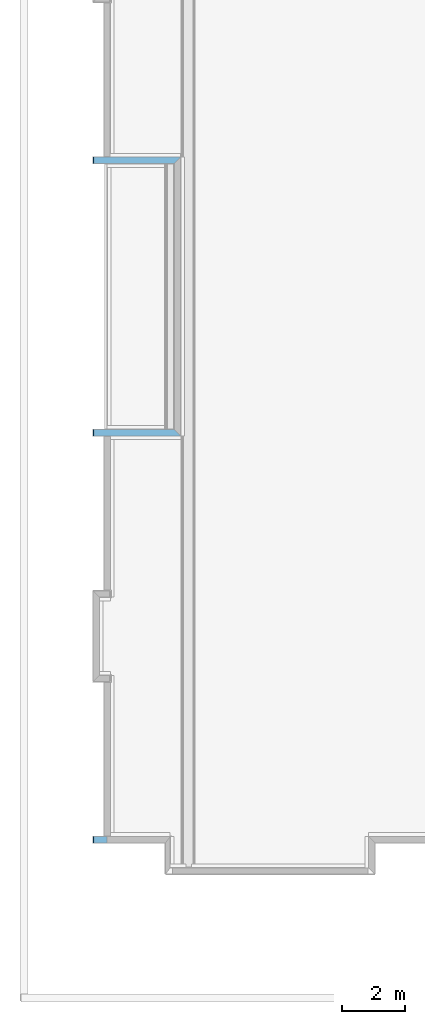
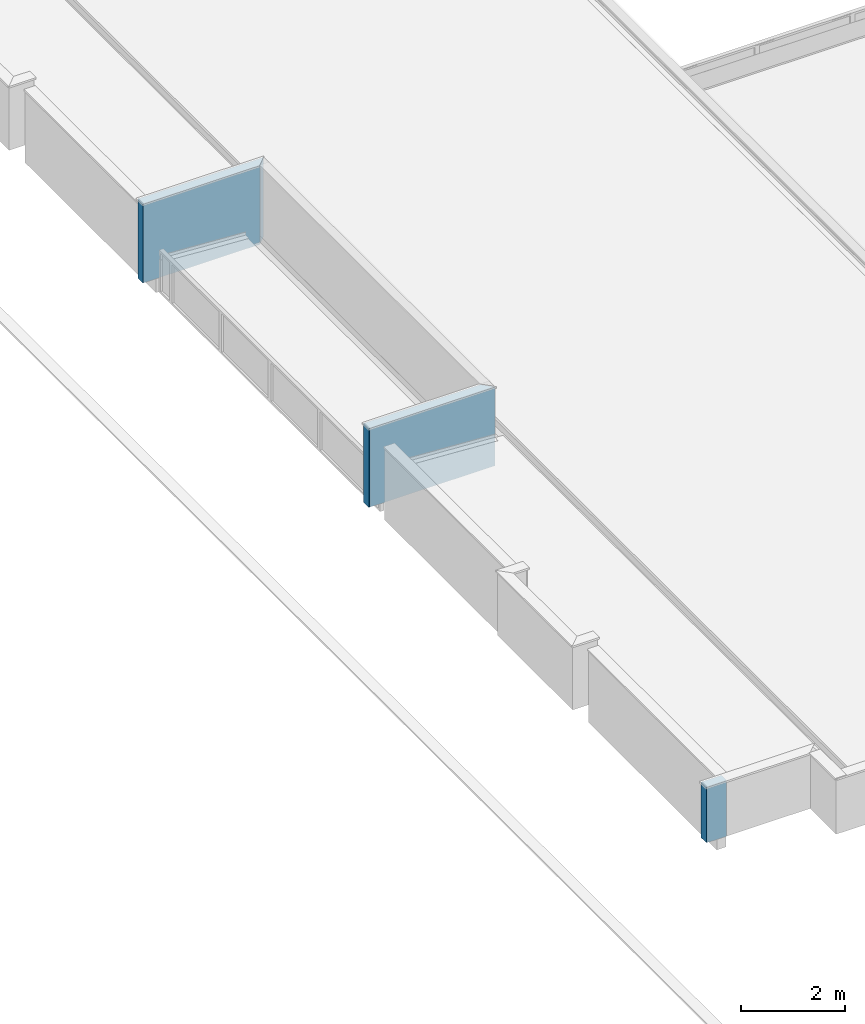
# One storey, part 16 of 25: 3 walls, 3 openings, plus 3 elements that do not belong to this part.
"""IFC4 building model written with IfcOpenShell, lengths in metres."""

import ifcopenshell
import ifcopenshell.guid

model = None  # the IFC model being written
_history = None  # IfcOwnerHistory: only IFC2X3 demands one
_inside = {}  # id of a spatial element -> (the spatial element, [elements in it])
_under = {}  # id of a project, library or spatial element -> (it, [spatial elements below it])
_declared = {}  # id of a project -> (the project, [libraries it declares])
_typed = {}  # id of a type object -> (the type object, [elements of that type])
_made_of = {}  # id of a material, layer set ... -> (it, [elements and type objects made of it])


def new_model(schema):
    """Start an empty IFC model of exactly this schema.

    Asked for "IFC4X3", IfcOpenShell would pick the latest addendum, in which some entities
    have other attributes; the version numbers below select the first issue.
    IFC2X3 requires an IfcOwnerHistory on every rooted entity: one is made here for all.
    """
    global model, _history
    if schema == "IFC4X3":
        model = ifcopenshell.file(schema_version=(4, 3, 0, 0))
    else:
        model = ifcopenshell.file(schema=schema)
    _inside.clear()
    _under.clear()
    _declared.clear()
    _typed.clear()
    _made_of.clear()
    _history = None
    if model.schema == "IFC2X3":
        org = make("IfcOrganization", Name="unknown")
        user = make(
            "IfcPersonAndOrganization",
            ThePerson=make("IfcPerson", FamilyName="unknown"),
            TheOrganization=org,
        )
        app = make(
            "IfcApplication",
            ApplicationDeveloper=org,
            Version="unknown",
            ApplicationFullName="unknown",
            ApplicationIdentifier="unknown",
        )
        _history = make(
            "IfcOwnerHistory",
            OwningUser=user,
            OwningApplication=app,
            ChangeAction="ADDED",
            CreationDate=0,
        )
    return model


def make(cls, **values):
    """One entity of the class cls with the attributes given. An attribute that is None is left unset."""
    return model.create_entity(
        cls, **{name: value for name, value in values.items() if value is not None}
    )


def entity(cls, *values):
    """Any entity or typed value of the class cls, its attributes in the order of the schema. None: left unset."""
    e = model.create_entity(cls)
    for i, value in enumerate(values):
        if value is not None:
            e[i] = value
    return e


def rooted(cls, **values):
    """An entity with a GlobalId (a new one), such as an element, a storey or a relation."""
    return make(cls, GlobalId=ifcopenshell.guid.new(), OwnerHistory=_history, **values)


def si_unit(unit_type, name, prefix=None):
    """IfcSIUnit, for example si_unit("LENGTHUNIT", "METRE", prefix="MILLI")."""
    return make("IfcSIUnit", UnitType=unit_type, Prefix=prefix, Name=name)


def converted_unit(unit_type, name, factor, base, dimensions=None, offset=None):
    """IfcConversionBasedUnit, such as the inch: factor (a typed value) times the base unit."""
    return make(
        "IfcConversionBasedUnit"
        if offset is None
        else "IfcConversionBasedUnitWithOffset",
        ConversionOffset=offset,
        Dimensions=None
        if dimensions is None
        else entity("IfcDimensionalExponents", *dimensions),
        UnitType=unit_type,
        Name=name,
        ConversionFactor=make(
            "IfcMeasureWithUnit", ValueComponent=factor, UnitComponent=base
        ),
    )


def derived_unit(unit_type, elements):
    """IfcDerivedUnit: a product of units, each with its exponent."""
    return make(
        "IfcDerivedUnit",
        Elements=[
            make("IfcDerivedUnitElement", Unit=unit, Exponent=power)
            for unit, power in elements
        ],
        UnitType=unit_type,
    )


def assignment(units):
    """IfcUnitAssignment: the units of a project."""
    return None if units is None else make("IfcUnitAssignment", Units=units)


def point(xyz):
    """IfcCartesianPoint."""
    return None if xyz is None else make("IfcCartesianPoint", Coordinates=xyz)


def direction(xyz):
    """IfcDirection."""
    return None if xyz is None else make("IfcDirection", DirectionRatios=xyz)


def frame(location, z_axis=None, x_axis=None):
    """IfcAxis2Placement3D, a coordinate frame: its origin and axes. An axis left out is left unset."""
    return make(
        "IfcAxis2Placement3D",
        Location=point(location),
        Axis=direction(z_axis),
        RefDirection=direction(x_axis),
    )


def frame_2d(location, x_axis=None):
    """IfcAxis2Placement2D, a coordinate frame in the plane: its origin and x axis."""
    return make(
        "IfcAxis2Placement2D", Location=point(location), RefDirection=direction(x_axis)
    )


def origin_with_axes():
    """The frame at (0, 0, 0) with the z axis (0, 0, 1) and the x axis (1, 0, 0) written out."""
    return frame((0.0, 0.0, 0.0), z_axis=(0.0, 0.0, 1.0), x_axis=(1.0, 0.0, 0.0))


def origin_2d_with_axis():
    """The frame at (0, 0) in the plane with the x axis (1, 0) written out."""
    return frame_2d((0.0, 0.0), x_axis=(1.0, 0.0))


def place(relative_to, where):
    """IfcLocalPlacement: puts the frame where relative to a parent placement (None: the world)."""
    return make(
        "IfcLocalPlacement", PlacementRelTo=relative_to, RelativePlacement=where
    )


def context(
    kind, dimensions, precision=None, world=None, true_north=None, identifier=None
):
    """IfcGeometricRepresentationContext, for example the 3D "Model" context."""
    return make(
        "IfcGeometricRepresentationContext",
        ContextIdentifier=identifier,
        ContextType=kind,
        CoordinateSpaceDimension=dimensions,
        Precision=precision,
        WorldCoordinateSystem=world,
        TrueNorth=true_north,
    )


def subcontext(parent, identifier, kind, view, scale=None):
    """IfcGeometricRepresentationSubContext, for example "Body" below "Model"."""
    return make(
        "IfcGeometricRepresentationSubContext",
        ContextIdentifier=identifier,
        ContextType=kind,
        ParentContext=parent,
        TargetScale=scale,
        TargetView=view,
    )


def project(units=None, contexts=None):
    """IfcProject with its units and contexts."""
    return rooted(
        "IfcProject",
        Name="project",
        RepresentationContexts=contexts,
        UnitsInContext=assignment(units),
    )


def spatial(cls, under=None, at=None, **own):
    """A site, building, storey or space (cls), placed at a placement, below another one or the project."""
    s = rooted(cls, ObjectPlacement=at, **own)
    if under is not None:
        _under.setdefault(under.id(), (under, []))[1].append(s)
    return s


def point_list(points):
    """IfcCartesianPointList2D or 3D."""
    cls = (
        "IfcCartesianPointList2D" if len(points[0]) == 2 else "IfcCartesianPointList3D"
    )
    return make(cls, CoordList=points)


def line(*indices):
    """IfcLineIndex: a straight run through numbered points of an indexed curve."""
    return model.create_entity("IfcLineIndex", indices)


def indexed_curve(points, segments=None, self_intersect=None):
    """IfcIndexedPolyCurve: lines and arcs through numbered points (the first is 1)."""
    return make(
        "IfcIndexedPolyCurve",
        Points=point_list(points),
        Segments=segments,
        SelfIntersect=self_intersect,
    )


def profile(cls, at=None, kind="AREA", **sizes):
    """A parametric profile (cls). Its sizes go by their IFC names, for example OverallWidth=200.0."""
    return make(cls, ProfileType=kind, Position=at, **sizes)


def rectangle(**sizes):
    """IfcRectangleProfileDef."""
    return profile("IfcRectangleProfileDef", **sizes)


def outline(outer, holes=None, kind="AREA"):
    """IfcArbitraryClosedProfileDef: a profile drawn as a closed curve; with holes, ...WithVoids."""
    if holes is None:
        return make("IfcArbitraryClosedProfileDef", ProfileType=kind, OuterCurve=outer)
    return make(
        "IfcArbitraryProfileDefWithVoids",
        ProfileType=kind,
        OuterCurve=outer,
        InnerCurves=holes,
    )


def extrude(swept, where, along, depth):
    """IfcExtrudedAreaSolid: the profile swept, set in the frame where, extruded along a direction by depth."""
    return make(
        "IfcExtrudedAreaSolid",
        SweptArea=swept,
        Position=where,
        ExtrudedDirection=direction(along),
        Depth=depth,
    )


def polygons(points, faces, closed=None, point_numbers=None):
    """IfcPolygonalFaceSet: a face is its outer loop, then its inner loops; points numbered from 1."""
    made = []
    for loops in faces:
        if len(loops) == 1:
            made.append(make("IfcIndexedPolygonalFace", CoordIndex=loops[0]))
        else:
            made.append(
                make(
                    "IfcIndexedPolygonalFaceWithVoids",
                    CoordIndex=loops[0],
                    InnerCoordIndices=loops[1:],
                )
            )
    return make(
        "IfcPolygonalFaceSet",
        Coordinates=point_list(points),
        Closed=closed,
        Faces=made,
        PnIndex=point_numbers,
    )


def shape(context_of_items, identifier, shape_type, items):
    """IfcShapeRepresentation: the items that make up one representation, for example the "Body"."""
    return make(
        "IfcShapeRepresentation",
        ContextOfItems=context_of_items,
        RepresentationIdentifier=identifier,
        RepresentationType=shape_type,
        Items=items,
    )


def material(Name=None, Category=None):
    """IfcMaterial."""
    return make("IfcMaterial", Name=Name, Category=Category)


def layer(
    of_material, thickness, ventilated=None, Name=None, Category=None, Priority=None
):
    """IfcMaterialLayer: one layer of a wall or slab, of a material (None: an air gap)."""
    return make(
        "IfcMaterialLayer",
        Material=of_material,
        LayerThickness=thickness,
        IsVentilated=ventilated,
        Name=Name,
        Category=Category,
        Priority=Priority,
    )


def layer_set(layers, Name=None):
    """IfcMaterialLayerSet."""
    return make("IfcMaterialLayerSet", MaterialLayers=layers, LayerSetName=Name)


def layer_usage(for_layer_set, set_direction, sense, offset, extent=None):
    """IfcMaterialLayerSetUsage: how a layer set lies in its element."""
    return make(
        "IfcMaterialLayerSetUsage",
        ForLayerSet=for_layer_set,
        LayerSetDirection=set_direction,
        DirectionSense=sense,
        OffsetFromReferenceLine=offset,
        ReferenceExtent=extent,
    )


def constituent(of_material, Name=None, Category=None, fraction=None):
    """IfcMaterialConstituent: one of the materials an element consists of."""
    return make(
        "IfcMaterialConstituent",
        Name=Name,
        Material=of_material,
        Fraction=fraction,
        Category=Category,
    )


def constituent_set(constituents=None, Name=None):
    """IfcMaterialConstituentSet."""
    return make(
        "IfcMaterialConstituentSet", Name=Name, MaterialConstituents=constituents
    )


def made_of(thing, what):
    """Note that an element or type object is made of a material, layer set ...; save() writes the relation."""
    if what is not None:
        _made_of.setdefault(what.id(), (what, []))[1].append(thing)
    return thing


def type_object(cls, material=None, **own):
    """A type object (cls), such as IfcWallType, which elements share."""
    return made_of(rooted(cls, **own), material)


def element(
    cls,
    number,
    at=None,
    inside=None,
    cuts=None,
    type_object=None,
    material=None,
    context=None,
    identifier="Body",
    shape_type=None,
    held_by="IfcProductDefinitionShape",
    body=None,
    shapes=None,
    **own,
):
    """One element of the class cls, such as IfcWall. Its Tag is "e" and its number.

    at: its placement. inside: the storey or other place that contains it. cuts: it is an
    opening in that element (IfcRelVoidsElement). A single representation is given by context,
    identifier, shape_type and body (its items); several are given by shapes. held_by: the class
    of the entity that holds the representations. save() writes the other relations.
    """
    e = rooted(cls, Tag="e%d" % number, ObjectPlacement=at, **own)
    if body is not None:
        shapes = [shape(context, identifier, shape_type, body)]
    if shapes is not None:
        e.Representation = make(held_by, Representations=shapes)
    if inside is not None:
        _inside.setdefault(inside.id(), (inside, []))[1].append(e)
    if cuts is not None:
        rooted(
            "IfcRelVoidsElement", RelatingBuildingElement=cuts, RelatedOpeningElement=e
        )
    if type_object is not None:
        _typed.setdefault(type_object.id(), (type_object, []))[1].append(e)
    return made_of(e, material)


def fill(opening, filler):
    """IfcRelFillsElement: the door or window that sits in an opening."""
    return rooted(
        "IfcRelFillsElement",
        RelatingOpeningElement=opening,
        RelatedBuildingElement=filler,
    )


def aggregate(whole, parts):
    """IfcRelAggregates: a whole, such as a stair, and the parts it consists of."""
    return rooted("IfcRelAggregates", RelatingObject=whole, RelatedObjects=parts)


def save(model, path):
    """Write the relations noted so far, then the file.

    IfcRelAggregates (storeys below a building ...), IfcRelContainedInSpatialStructure (elements
    in a storey), IfcRelDefinesByType, IfcRelAssociatesMaterial and IfcRelDeclares: one each for
    every whole, place, type object, material and project.
    """
    for whole, parts in _under.values():
        aggregate(whole, parts)
    for where, things in _inside.values():
        rooted(
            "IfcRelContainedInSpatialStructure",
            RelatedElements=things,
            RelatingStructure=where,
        )
    for kind, things in _typed.values():
        rooted("IfcRelDefinesByType", RelatedObjects=things, RelatingType=kind)
    for what, things in _made_of.values():
        rooted("IfcRelAssociatesMaterial", RelatedObjects=things, RelatingMaterial=what)
    for by, libraries in _declared.values():
        rooted("IfcRelDeclares", RelatingContext=by, RelatedDefinitions=libraries)
    model.write(path)


model = new_model("IFC4")

# Units and contexts
model_context = context("Model", 3, precision=1e-05, world=origin_with_axes(), true_north=direction((0.0, 1.0)))
body_context = subcontext(model_context, "Body", "Model", "MODEL_VIEW")
ifc_project = project(units=[si_unit("LENGTHUNIT", "METRE"), si_unit("AREAUNIT", "SQUARE_METRE"), si_unit("VOLUMEUNIT", "CUBIC_METRE"), converted_unit("PLANEANGLEUNIT", "DEGREE", entity("IfcPlaneAngleMeasure", 0.0174532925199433), si_unit("PLANEANGLEUNIT", "RADIAN"), dimensions=[0, 0, 0, 0, 0, 0, 0]), converted_unit("TIMEUNIT", "Year", entity("IfcTimeMeasure", 31557600.0), si_unit("TIMEUNIT", "SECOND"), dimensions=[0, 0, 1, 0, 0, 0, 0]), si_unit("MASSUNIT", "GRAM", prefix="KILO"), si_unit("THERMODYNAMICTEMPERATUREUNIT", "DEGREE_CELSIUS"), si_unit("LUMINOUSINTENSITYUNIT", "LUMEN"), si_unit("ENERGYUNIT", "JOULE", prefix="MEGA"), derived_unit("THERMALCONDUCTANCEUNIT", [(si_unit("POWERUNIT", "WATT"), 1), (si_unit("LENGTHUNIT", "METRE"), -1), (si_unit("THERMODYNAMICTEMPERATUREUNIT", "KELVIN"), -1)]), derived_unit("SPECIFICHEATCAPACITYUNIT", [(si_unit("ENERGYUNIT", "JOULE"), 1), (si_unit("MASSUNIT", "GRAM", prefix="KILO"), -1), (si_unit("THERMODYNAMICTEMPERATUREUNIT", "KELVIN"), -1)]), derived_unit("MASSDENSITYUNIT", [(si_unit("MASSUNIT", "GRAM", prefix="KILO"), 1), (si_unit("VOLUMEUNIT", "CUBIC_METRE"), -1)])], contexts=[model_context])

# Site, building, storey
site_placement = place(None, origin_with_axes())
site = spatial("IfcSite", under=ifc_project, at=site_placement, Name="PADRÃO", CompositionType="ELEMENT")
building_placement = place(site_placement, origin_with_axes())
building = spatial("IfcBuilding", under=site, at=building_placement, Name="CRECHE PRÉ-ESCOLA TIPO 2", CompositionType="ELEMENT")
storey_placement = place(building_placement, frame((0.0, 0.0, 3.26), z_axis=(0.0, 0.0, 1.0), x_axis=(1.0, 0.0, 0.0)))
storey = spatial("IfcBuildingStorey", under=building, at=storey_placement, Name="COBERTURA", CompositionType="ELEMENT", Elevation=3.26)

# Walls, opening
ifc_material_1 = material(Name="EI-REV-Pintura Acrílica Cor Cinza")
ifc_layer_1 = layer(ifc_material_1, 0.015, ventilated="UNKNOWN", Name="EI-REV-Pintura Acrílica Cor Cinza 1")
ifc_material_2 = material(Name="EI-REV-Massa Acrílica (externa)")
ifc_layer_2 = layer(ifc_material_2, 0.005, ventilated="UNKNOWN", Name="EI-REV-Massa Acrílica (externa) 1")
ifc_material_3 = material(Name="EI-REV-Massa única - Fachada")
ifc_layer_3 = layer(ifc_material_3, 0.005, ventilated="UNKNOWN", Name="EI-REV-Massa única - Fachada 1")
ifc_material_4 = material(Name="EI-REV-Chapisco (externo)")
ifc_layer_4 = layer(ifc_material_4, 0.005, ventilated="UNKNOWN", Name="EI-REV-Chapisco (externo) 1")
ifc_material_5 = material(Name="TIJOLO - CERAMICO 14x19x39 - espessura 20cm")
ifc_layer_5 = layer(ifc_material_5, 0.14, ventilated="UNKNOWN", Name="TIJOLO - CERAMICO 14x19x39 - espessura 20cm")
ifc_layer_6 = layer(ifc_material_4, 0.005, ventilated="UNKNOWN", Name="EI-REV-Chapisco (externo) 2")
ifc_layer_7 = layer(ifc_material_3, 0.005, ventilated="UNKNOWN", Name="EI-REV-Massa única - Fachada 2")
ifc_layer_8 = layer(ifc_material_2, 0.005, ventilated="UNKNOWN", Name="EI-REV-Massa Acrílica (externa) 2")
ifc_layer_9 = layer(ifc_material_1, 0.015, ventilated="UNKNOWN", Name="EI-REV-Pintura Acrílica Cor Cinza 2")
ifc_layer_set = layer_set([ifc_layer_1, ifc_layer_2, ifc_layer_3, ifc_layer_4, ifc_layer_5, ifc_layer_6, ifc_layer_7, ifc_layer_8, ifc_layer_9], Name="FNDE-PLAT_AL14-Pintura cinza")
ifc_layer_usage_1 = layer_usage(ifc_layer_set, "AXIS2", "POSITIVE", -0.1)
wall_type_1 = type_object("IfcWallType", Name="FNDE-PLAT_AL14-Pintura cinza 200", PredefinedType="NOTDEFINED")
wall_1_placement = place(storey_placement, frame((-37.6900712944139, 5.15000196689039, 0.0), z_axis=(0.0, 0.0, 1.0), x_axis=(0.999999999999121, -1.32597019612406e-06, 0.0)))
wall_1 = element("IfcWall", 1, at=wall_1_placement, inside=storey, type_object=wall_type_1, material=ifc_layer_usage_1, Name="AL14", PredefinedType="NOTDEFINED", context=body_context, shape_type="SweptSolid", body=[
    extrude(outline(indexed_curve([(0.0, -0.0999999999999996), (0.449967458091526, -0.0999999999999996), (0.449967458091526, 0.100000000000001), (0.0, 0.100000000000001)], segments=[line(1, 2, 3, 4, 1)])), origin_with_axes(), (0.0, 0.0, 1.0), 1.31),
])
opening_1_placement = place(wall_1_placement, origin_with_axes())
opening_1 = element("IfcOpeningElement", 2, at=opening_1_placement, cuts=wall_1, Name="AL14", context=body_context, shape_type="SweptSolid", body=[
    extrude(rectangle(XDim=0.2, YDim=0.0150000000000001, at=origin_2d_with_axis()), frame((0.00750000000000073, 0.0, 0.0), z_axis=(0.0, 0.0, 1.0), x_axis=(0.0, 1.0, 0.0)), (0.0, 0.0, 1.0), 1.31),
    extrude(rectangle(XDim=0.185, YDim=0.00499999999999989, at=origin_2d_with_axis()), frame((0.0175000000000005, 0.0074999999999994, 0.0), z_axis=(0.0, 0.0, 1.0), x_axis=(0.0, 1.0, 0.0)), (0.0, 0.0, 1.0), 1.31),
    extrude(rectangle(XDim=0.180000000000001, YDim=0.00500000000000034, at=origin_2d_with_axis()), frame((0.0225000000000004, 0.00999999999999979, 0.0), z_axis=(0.0, 0.0, 1.0), x_axis=(0.0, 1.0, 0.0)), (0.0, 0.0, 1.0), 1.31),
])
ifc_constituent_1 = constituent(ifc_material_1, Name="EI-REV-Pintura Acrílica Cor Cinza")
ifc_constituent_2 = constituent(ifc_material_2, Name="EI-REV-Massa Acrílica (externa)")
ifc_constituent_3 = constituent(ifc_material_3, Name="EI-REV-Massa única - Fachada")
ifc_constituent_set_1 = constituent_set(constituents=[ifc_constituent_1, ifc_constituent_2, ifc_constituent_3])
wall_type_2 = type_object("IfcWallType", Name="Arremate com Dobra Revest 27", PredefinedType="NOTDEFINED")
wall_2_placement = place(opening_1_placement, frame((0.0125000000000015, 0.0, 0.0), z_axis=(0.0, 0.0, 1.0), x_axis=(-1.0, 0.0, 0.0)))
wall_2 = element("IfcWall", 3, at=wall_2_placement, inside=storey, type_object=wall_type_2, material=ifc_constituent_set_1, Name="AL14", PredefinedType="NOTDEFINED", context=body_context, shape_type="Tessellation", body=[
    polygons([(0.0125000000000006, 0.0999999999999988, 0.0), (-0.00249999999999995, 0.0999999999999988, 0.0), (-0.00249999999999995, 0.0999999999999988, 1.31), (0.0125000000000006, 0.0999999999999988, 1.31), (0.0125000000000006, -0.100000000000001, 0.0), (-0.00249999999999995, -0.100000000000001, 0.0), (-0.00249999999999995, -0.100000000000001, 1.31), (0.0125000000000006, -0.100000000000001, 1.31)], [[[1, 2, 3, 4]], [[5, 6, 2, 1]], [[6, 7, 3, 2]], [[7, 8, 4, 3]], [[8, 5, 1, 4]], [[5, 8, 7, 6]]], closed=True),
    polygons([(-0.00249999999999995, 0.0849999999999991, 0.0), (-0.00749999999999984, 0.0849999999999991, 0.0), (-0.00749999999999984, 0.0849999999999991, 1.31), (-0.00249999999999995, 0.0849999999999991, 1.31), (-0.00249999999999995, -0.100000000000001, 0.0), (-0.0074999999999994, -0.100000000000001, 0.0), (-0.0074999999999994, -0.100000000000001, 1.31), (-0.00249999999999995, -0.100000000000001, 1.31)], [[[1, 2, 3, 4]], [[5, 6, 2, 1]], [[6, 7, 3, 2]], [[7, 8, 4, 3]], [[8, 5, 1, 4]], [[5, 8, 7, 6]]], closed=True),
    polygons([(-0.00749999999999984, 0.0799999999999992, 0.0), (-0.0124999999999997, 0.0799999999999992, 0.0), (-0.0124999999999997, 0.0799999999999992, 1.31), (-0.00749999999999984, 0.0799999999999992, 1.31), (-0.0074999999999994, -0.100000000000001, 0.0), (-0.0124999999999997, -0.100000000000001, 0.0), (-0.0124999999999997, -0.100000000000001, 1.31), (-0.0074999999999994, -0.100000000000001, 1.31)], [[[1, 2, 3, 4]], [[5, 6, 2, 1]], [[6, 7, 3, 2]], [[7, 8, 4, 3]], [[8, 5, 1, 4]], [[5, 8, 7, 6]]], closed=True),
])
fill(opening_1, wall_2)

ifc_layer_usage_2 = layer_usage(ifc_layer_set, "AXIS2", "POSITIVE", -0.1)
wall_3_placement = place(storey_placement, frame((-37.6900464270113, 26.8500554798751, 0.0), z_axis=(0.0, 0.0, 1.0), x_axis=(1.0, 0.0, 0.0)))
wall_3 = element("IfcWall", 4, at=wall_3_placement, inside=storey, type_object=wall_type_1, material=ifc_layer_usage_2, Name="AL14", PredefinedType="NOTDEFINED", context=body_context, shape_type="SweptSolid", body=[
    extrude(outline(indexed_curve([(0.0, -0.100000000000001), (2.59997380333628, -0.100000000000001), (2.79997294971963, 0.0999999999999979), (0.0, 0.0999999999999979)], segments=[line(1, 2, 3, 4, 1)])), origin_with_axes(), (0.0, 0.0, 1.0), 1.86),
])
opening_2_placement = place(wall_3_placement, origin_with_axes())
opening_2 = element("IfcOpeningElement", 5, at=opening_2_placement, cuts=wall_3, Name="AL14", context=body_context, shape_type="SweptSolid", body=[
    extrude(rectangle(XDim=0.199999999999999, YDim=0.0150000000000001, at=origin_2d_with_axis()), frame((0.00750000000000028, 0.0, 0.0), z_axis=(0.0, 0.0, 1.0), x_axis=(0.0, 1.0, 0.0)), (0.0, 0.0, 1.0), 1.86),
    extrude(rectangle(XDim=0.184999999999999, YDim=0.00499999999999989, at=origin_2d_with_axis()), frame((0.0175000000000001, 0.00749999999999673, 0.0), z_axis=(0.0, 0.0, 1.0), x_axis=(0.0, 1.0, 0.0)), (0.0, 0.0, 1.0), 1.86),
    extrude(rectangle(XDim=0.18, YDim=0.00499999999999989, at=origin_2d_with_axis()), frame((0.0225, 0.00999999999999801, 0.0), z_axis=(0.0, 0.0, 1.0), x_axis=(0.0, 1.0, 0.0)), (0.0, 0.0, 1.0), 1.86),
])
ifc_constituent_4 = constituent(ifc_material_1, Name="EI-REV-Pintura Acrílica Cor Cinza")
ifc_constituent_5 = constituent(ifc_material_2, Name="EI-REV-Massa Acrílica (externa)")
ifc_constituent_6 = constituent(ifc_material_3, Name="EI-REV-Massa única - Fachada")
ifc_constituent_set_2 = constituent_set(constituents=[ifc_constituent_4, ifc_constituent_5, ifc_constituent_6])
wall_4_placement = place(opening_2_placement, frame((0.0124999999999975, 0.0, 0.0), z_axis=(0.0, 0.0, 1.0), x_axis=(-1.0, 0.0, 0.0)))
wall_4 = element("IfcWall", 6, at=wall_4_placement, inside=storey, type_object=wall_type_2, material=ifc_constituent_set_2, Name="AL14", PredefinedType="NOTDEFINED", context=body_context, shape_type="Tessellation", body=[
    polygons([(0.0125000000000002, 0.100000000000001, 0.0), (-0.00249999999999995, 0.100000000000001, 0.0), (-0.00249999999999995, 0.100000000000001, 1.86), (0.0125000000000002, 0.100000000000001, 1.86), (0.0125000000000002, -0.0999999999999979, 0.0), (-0.00249999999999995, -0.0999999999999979, 0.0), (-0.00249999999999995, -0.0999999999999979, 1.86), (0.0125000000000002, -0.0999999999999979, 1.86)], [[[1, 2, 3, 4]], [[5, 6, 2, 1]], [[6, 7, 3, 2]], [[7, 8, 4, 3]], [[8, 5, 1, 4]], [[5, 8, 7, 6]]], closed=True),
    polygons([(-0.00249999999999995, 0.0850000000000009, 0.0), (-0.00749999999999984, 0.0850000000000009, 0.0), (-0.00749999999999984, 0.0850000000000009, 1.86), (-0.00249999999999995, 0.0850000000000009, 1.86), (-0.00249999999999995, -0.0999999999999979, 0.0), (-0.00749999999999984, -0.0999999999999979, 0.0), (-0.00749999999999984, -0.0999999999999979, 1.86), (-0.00249999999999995, -0.0999999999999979, 1.86)], [[[1, 2, 3, 4]], [[5, 6, 2, 1]], [[6, 7, 3, 2]], [[7, 8, 4, 3]], [[8, 5, 1, 4]], [[5, 8, 7, 6]]], closed=True),
    polygons([(-0.00749999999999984, 0.0800000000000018, 0.0), (-0.0124999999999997, 0.0800000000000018, 0.0), (-0.0124999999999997, 0.0800000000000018, 1.86), (-0.00749999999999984, 0.0800000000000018, 1.86), (-0.00749999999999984, -0.0999999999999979, 0.0), (-0.0124999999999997, -0.0999999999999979, 0.0), (-0.0124999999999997, -0.0999999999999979, 1.86), (-0.00749999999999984, -0.0999999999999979, 1.86)], [[[1, 2, 3, 4]], [[5, 6, 2, 1]], [[6, 7, 3, 2]], [[7, 8, 4, 3]], [[8, 5, 1, 4]], [[5, 8, 7, 6]]], closed=True),
])
fill(opening_2, wall_4)

ifc_layer_usage_3 = layer_usage(ifc_layer_set, "AXIS2", "POSITIVE", -0.1)
wall_5_placement = place(storey_placement, frame((-34.9900359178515, 18.1500019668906, 0.0), z_axis=(0.0, 0.0, 1.0), x_axis=(-1.0, 0.0, 0.0)))
wall_5 = element("IfcWall", 7, at=wall_5_placement, inside=storey, type_object=wall_type_1, material=ifc_layer_usage_3, Name="AL14", PredefinedType="NOTDEFINED", context=body_context, shape_type="SweptSolid", body=[
    extrude(outline(indexed_curve([(0.100000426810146, -0.100000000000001), (2.70001050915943, -0.100000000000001), (2.70001050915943, 0.0999999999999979), (-0.100000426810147, 0.0999999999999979)], segments=[line(1, 2, 3, 4, 1)])), origin_with_axes(), (0.0, 0.0, 1.0), 1.86),
])
opening_3_placement = place(wall_5_placement, frame((2.70001050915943, 0.0, 0.0), z_axis=(0.0, 0.0, 1.0), x_axis=(1.0, 0.0, 0.0)))
opening_3 = element("IfcOpeningElement", 8, at=opening_3_placement, cuts=wall_5, Name="AL14", context=body_context, shape_type="SweptSolid", body=[
    extrude(rectangle(XDim=0.199999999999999, YDim=0.0150000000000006, at=origin_2d_with_axis()), frame((-0.00750000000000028, 0.0, 0.0), z_axis=(0.0, 0.0, 1.0), x_axis=(0.0, -1.0, 0.0)), (0.0, 0.0, 1.0), 1.86),
    extrude(rectangle(XDim=0.184999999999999, YDim=0.00500000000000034, at=origin_2d_with_axis()), frame((-0.0175000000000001, 0.00750000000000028, 0.0), z_axis=(0.0, 0.0, 1.0), x_axis=(0.0, -1.0, 0.0)), (0.0, 0.0, 1.0), 1.86),
    extrude(rectangle(XDim=0.18, YDim=0.00500000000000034, at=origin_2d_with_axis()), frame((-0.0225, 0.00999999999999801, 0.0), z_axis=(0.0, 0.0, 1.0), x_axis=(0.0, -1.0, 0.0)), (0.0, 0.0, 1.0), 1.86),
])
ifc_constituent_7 = constituent(ifc_material_1, Name="EI-REV-Pintura Acrílica Cor Cinza")
ifc_constituent_8 = constituent(ifc_material_2, Name="EI-REV-Massa Acrílica (externa)")
ifc_constituent_9 = constituent(ifc_material_3, Name="EI-REV-Massa única - Fachada")
ifc_constituent_set_3 = constituent_set(constituents=[ifc_constituent_7, ifc_constituent_8, ifc_constituent_9])
wall_6_placement = place(opening_3_placement, frame((-0.0124999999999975, 0.0, 0.0), z_axis=(0.0, 0.0, 1.0), x_axis=(1.0, 0.0, 0.0)))
wall_6 = element("IfcWall", 9, at=wall_6_placement, inside=storey, type_object=wall_type_2, material=ifc_constituent_set_3, Name="AL14", PredefinedType="NOTDEFINED", context=body_context, shape_type="Tessellation", body=[
    polygons([(0.0125000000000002, 0.0999999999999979, 0.0), (-0.00249999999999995, 0.0999999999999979, 0.0), (-0.00249999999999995, 0.0999999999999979, 1.86), (0.0125000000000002, 0.0999999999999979, 1.86), (0.0125000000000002, -0.100000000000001, 0.0), (-0.00249999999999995, -0.100000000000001, 0.0), (-0.00249999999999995, -0.100000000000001, 1.86), (0.0125000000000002, -0.100000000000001, 1.86)], [[[1, 2, 3, 4]], [[5, 6, 2, 1]], [[6, 7, 3, 2]], [[7, 8, 4, 3]], [[8, 5, 1, 4]], [[5, 8, 7, 6]]], closed=True),
    polygons([(-0.00249999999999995, 0.0999999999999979, 0.0), (-0.00749999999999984, 0.0999999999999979, 0.0), (-0.00749999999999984, 0.0999999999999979, 1.86), (-0.00249999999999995, 0.0999999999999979, 1.86), (-0.00249999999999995, -0.0850000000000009, 0.0), (-0.00749999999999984, -0.0850000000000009, 0.0), (-0.00749999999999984, -0.0850000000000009, 1.86), (-0.00249999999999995, -0.0850000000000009, 1.86)], [[[1, 2, 3, 4]], [[5, 6, 2, 1]], [[6, 7, 3, 2]], [[7, 8, 4, 3]], [[8, 5, 1, 4]], [[5, 8, 7, 6]]], closed=True),
    polygons([(-0.00749999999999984, 0.0999999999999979, 0.0), (-0.0124999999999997, 0.0999999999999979, 0.0), (-0.0124999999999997, 0.0999999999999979, 1.86), (-0.00749999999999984, 0.0999999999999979, 1.86), (-0.00749999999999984, -0.0800000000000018, 0.0), (-0.0124999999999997, -0.0800000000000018, 0.0), (-0.0124999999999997, -0.0800000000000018, 1.86), (-0.00749999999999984, -0.0800000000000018, 1.86)], [[[1, 2, 3, 4]], [[5, 6, 2, 1]], [[6, 7, 3, 2]], [[7, 8, 4, 3]], [[8, 5, 1, 4]], [[5, 8, 7, 6]]], closed=True),
])
fill(opening_3, wall_6)

save(model, "model.ifc")
